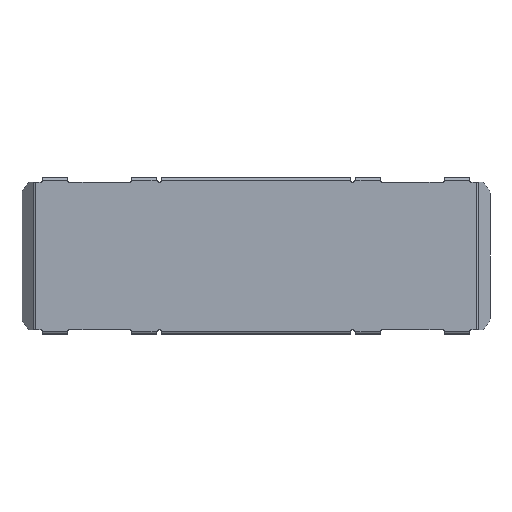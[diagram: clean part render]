
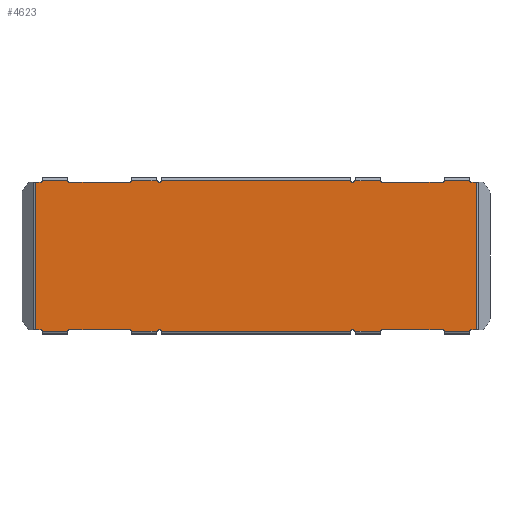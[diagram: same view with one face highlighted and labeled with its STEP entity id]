
A CAD part, top view. The second image highlights one B-rep face of the part: STEP entity #4623.
In plain terms, the highlighted planar face has unit normal (0, 0, 1).
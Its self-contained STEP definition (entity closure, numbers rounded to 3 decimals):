
#226=CIRCLE('',#4921,1.5);
#227=CIRCLE('',#4922,1.5);
#228=CIRCLE('',#4923,1.5);
#229=CIRCLE('',#4924,1.5);
#230=CIRCLE('',#4925,1.5);
#231=CIRCLE('',#4926,1.5);
#232=CIRCLE('',#4927,1.5);
#233=CIRCLE('',#4928,1.5);
#234=CIRCLE('',#4929,1.5);
#235=CIRCLE('',#4930,1.5);
#236=CIRCLE('',#4931,1.5);
#237=CIRCLE('',#4932,1.5);
#238=CIRCLE('',#4933,1.5);
#239=CIRCLE('',#4934,1.5);
#240=CIRCLE('',#4935,1.5);
#241=CIRCLE('',#4936,1.5);
#536=ORIENTED_EDGE('',*,*,#1939,.F.);
#537=ORIENTED_EDGE('',*,*,#1860,.T.);
#538=ORIENTED_EDGE('',*,*,#1940,.T.);
#539=ORIENTED_EDGE('',*,*,#1941,.T.);
#540=ORIENTED_EDGE('',*,*,#1942,.T.);
#541=ORIENTED_EDGE('',*,*,#1943,.T.);
#542=ORIENTED_EDGE('',*,*,#1944,.T.);
#543=ORIENTED_EDGE('',*,*,#1945,.T.);
#544=ORIENTED_EDGE('',*,*,#1946,.T.);
#545=ORIENTED_EDGE('',*,*,#1947,.T.);
#546=ORIENTED_EDGE('',*,*,#1948,.T.);
#547=ORIENTED_EDGE('',*,*,#1949,.T.);
#548=ORIENTED_EDGE('',*,*,#1950,.T.);
#549=ORIENTED_EDGE('',*,*,#1951,.T.);
#550=ORIENTED_EDGE('',*,*,#1952,.T.);
#551=ORIENTED_EDGE('',*,*,#1953,.T.);
#552=ORIENTED_EDGE('',*,*,#1954,.T.);
#553=ORIENTED_EDGE('',*,*,#1927,.T.);
#554=ORIENTED_EDGE('',*,*,#1955,.T.);
#555=ORIENTED_EDGE('',*,*,#1935,.T.);
#556=ORIENTED_EDGE('',*,*,#1956,.T.);
#557=ORIENTED_EDGE('',*,*,#1957,.F.);
#558=ORIENTED_EDGE('',*,*,#1958,.T.);
#559=ORIENTED_EDGE('',*,*,#1959,.T.);
#560=ORIENTED_EDGE('',*,*,#1960,.T.);
#561=ORIENTED_EDGE('',*,*,#1961,.F.);
#562=ORIENTED_EDGE('',*,*,#1962,.T.);
#563=ORIENTED_EDGE('',*,*,#1963,.F.);
#564=ORIENTED_EDGE('',*,*,#1964,.T.);
#565=ORIENTED_EDGE('',*,*,#1965,.F.);
#566=ORIENTED_EDGE('',*,*,#1966,.T.);
#567=ORIENTED_EDGE('',*,*,#1967,.T.);
#568=ORIENTED_EDGE('',*,*,#1968,.T.);
#569=ORIENTED_EDGE('',*,*,#1969,.F.);
#570=ORIENTED_EDGE('',*,*,#1970,.T.);
#571=ORIENTED_EDGE('',*,*,#1971,.T.);
#1860=EDGE_CURVE('',#2576,#2577,#3040,.T.);
#1927=EDGE_CURVE('',#2636,#2635,#3080,.T.);
#1935=EDGE_CURVE('',#2640,#2639,#3086,.T.);
#1939=EDGE_CURVE('',#2576,#2642,#3089,.T.);
#1940=EDGE_CURVE('',#2577,#2643,#226,.F.);
#1941=EDGE_CURVE('',#2643,#2644,#3090,.T.);
#1942=EDGE_CURVE('',#2644,#2645,#227,.F.);
#1943=EDGE_CURVE('',#2645,#2646,#3091,.T.);
#1944=EDGE_CURVE('',#2646,#2647,#228,.F.);
#1945=EDGE_CURVE('',#2647,#2648,#3092,.T.);
#1946=EDGE_CURVE('',#2648,#2649,#229,.F.);
#1947=EDGE_CURVE('',#2649,#2650,#3093,.T.);
#1948=EDGE_CURVE('',#2650,#2651,#230,.F.);
#1949=EDGE_CURVE('',#2651,#2652,#3094,.T.);
#1950=EDGE_CURVE('',#2652,#2653,#231,.F.);
#1951=EDGE_CURVE('',#2653,#2654,#3095,.T.);
#1952=EDGE_CURVE('',#2654,#2655,#232,.F.);
#1953=EDGE_CURVE('',#2655,#2656,#3096,.T.);
#1954=EDGE_CURVE('',#2656,#2636,#233,.F.);
#1955=EDGE_CURVE('',#2635,#2640,#3097,.T.);
#1956=EDGE_CURVE('',#2639,#2657,#234,.F.);
#1957=EDGE_CURVE('',#2658,#2657,#3098,.T.);
#1958=EDGE_CURVE('',#2658,#2659,#235,.F.);
#1959=EDGE_CURVE('',#2659,#2660,#3099,.T.);
#1960=EDGE_CURVE('',#2660,#2661,#236,.T.);
#1961=EDGE_CURVE('',#2662,#2661,#3100,.T.);
#1962=EDGE_CURVE('',#2662,#2663,#237,.F.);
#1963=EDGE_CURVE('',#2664,#2663,#3101,.T.);
#1964=EDGE_CURVE('',#2664,#2665,#238,.F.);
#1965=EDGE_CURVE('',#2666,#2665,#3102,.T.);
#1966=EDGE_CURVE('',#2666,#2667,#239,.F.);
#1967=EDGE_CURVE('',#2667,#2668,#3103,.T.);
#1968=EDGE_CURVE('',#2668,#2669,#240,.F.);
#1969=EDGE_CURVE('',#2670,#2669,#3104,.T.);
#1970=EDGE_CURVE('',#2670,#2671,#241,.F.);
#1971=EDGE_CURVE('',#2671,#2642,#3105,.T.);
#2576=VERTEX_POINT('',#6724);
#2577=VERTEX_POINT('',#6725);
#2635=VERTEX_POINT('',#6858);
#2636=VERTEX_POINT('',#6860);
#2639=VERTEX_POINT('',#6872);
#2640=VERTEX_POINT('',#6874);
#2642=VERTEX_POINT('',#6882);
#2643=VERTEX_POINT('',#6884);
#2644=VERTEX_POINT('',#6886);
#2645=VERTEX_POINT('',#6888);
#2646=VERTEX_POINT('',#6890);
#2647=VERTEX_POINT('',#6892);
#2648=VERTEX_POINT('',#6894);
#2649=VERTEX_POINT('',#6896);
#2650=VERTEX_POINT('',#6898);
#2651=VERTEX_POINT('',#6900);
#2652=VERTEX_POINT('',#6902);
#2653=VERTEX_POINT('',#6904);
#2654=VERTEX_POINT('',#6906);
#2655=VERTEX_POINT('',#6908);
#2656=VERTEX_POINT('',#6910);
#2657=VERTEX_POINT('',#6914);
#2658=VERTEX_POINT('',#6916);
#2659=VERTEX_POINT('',#6918);
#2660=VERTEX_POINT('',#6920);
#2661=VERTEX_POINT('',#6922);
#2662=VERTEX_POINT('',#6924);
#2663=VERTEX_POINT('',#6926);
#2664=VERTEX_POINT('',#6928);
#2665=VERTEX_POINT('',#6930);
#2666=VERTEX_POINT('',#6932);
#2667=VERTEX_POINT('',#6934);
#2668=VERTEX_POINT('',#6936);
#2669=VERTEX_POINT('',#6938);
#2670=VERTEX_POINT('',#6940);
#2671=VERTEX_POINT('',#6942);
#3040=LINE('',#6723,#3484);
#3080=LINE('',#6859,#3524);
#3086=LINE('',#6873,#3530);
#3089=LINE('',#6881,#3533);
#3090=LINE('',#6885,#3534);
#3091=LINE('',#6889,#3535);
#3092=LINE('',#6893,#3536);
#3093=LINE('',#6897,#3537);
#3094=LINE('',#6901,#3538);
#3095=LINE('',#6905,#3539);
#3096=LINE('',#6909,#3540);
#3097=LINE('',#6912,#3541);
#3098=LINE('',#6915,#3542);
#3099=LINE('',#6919,#3543);
#3100=LINE('',#6923,#3544);
#3101=LINE('',#6927,#3545);
#3102=LINE('',#6931,#3546);
#3103=LINE('',#6935,#3547);
#3104=LINE('',#6939,#3548);
#3105=LINE('',#6943,#3549);
#3484=VECTOR('',#5347,1000.);
#3524=VECTOR('',#5459,1000.);
#3530=VECTOR('',#5473,1000.);
#3533=VECTOR('',#5482,1000.);
#3534=VECTOR('',#5485,1000.);
#3535=VECTOR('',#5488,1000.);
#3536=VECTOR('',#5491,1000.);
#3537=VECTOR('',#5494,1000.);
#3538=VECTOR('',#5497,1000.);
#3539=VECTOR('',#5500,1000.);
#3540=VECTOR('',#5503,1000.);
#3541=VECTOR('',#5506,1000.);
#3542=VECTOR('',#5509,1000.);
#3543=VECTOR('',#5512,1000.);
#3544=VECTOR('',#5515,1000.);
#3545=VECTOR('',#5518,1000.);
#3546=VECTOR('',#5521,1000.);
#3547=VECTOR('',#5524,1000.);
#3548=VECTOR('',#5527,1000.);
#3549=VECTOR('',#5530,1000.);
#3941=EDGE_LOOP('',(#536,#537,#538,#539,#540,#541,#542,#543,#544,#545,#546,
#547,#548,#549,#550,#551,#552,#553,#554,#555,#556,#557,#558,#559,#560,#561,
#562,#563,#564,#565,#566,#567,#568,#569,#570,#571));
#4223=FACE_BOUND('',#3941,.T.);
#4501=PLANE('',#4920);
#4623=ADVANCED_FACE('',(#4223),#4501,.T.);
#4920=AXIS2_PLACEMENT_3D('',#6880,#5480,#5481);
#4921=AXIS2_PLACEMENT_3D('',#6883,#5483,#5484);
#4922=AXIS2_PLACEMENT_3D('',#6887,#5486,#5487);
#4923=AXIS2_PLACEMENT_3D('',#6891,#5489,#5490);
#4924=AXIS2_PLACEMENT_3D('',#6895,#5492,#5493);
#4925=AXIS2_PLACEMENT_3D('',#6899,#5495,#5496);
#4926=AXIS2_PLACEMENT_3D('',#6903,#5498,#5499);
#4927=AXIS2_PLACEMENT_3D('',#6907,#5501,#5502);
#4928=AXIS2_PLACEMENT_3D('',#6911,#5504,#5505);
#4929=AXIS2_PLACEMENT_3D('',#6913,#5507,#5508);
#4930=AXIS2_PLACEMENT_3D('',#6917,#5510,#5511);
#4931=AXIS2_PLACEMENT_3D('',#6921,#5513,#5514);
#4932=AXIS2_PLACEMENT_3D('',#6925,#5516,#5517);
#4933=AXIS2_PLACEMENT_3D('',#6929,#5519,#5520);
#4934=AXIS2_PLACEMENT_3D('',#6933,#5522,#5523);
#4935=AXIS2_PLACEMENT_3D('',#6937,#5525,#5526);
#4936=AXIS2_PLACEMENT_3D('',#6941,#5528,#5529);
#5347=DIRECTION('',(1.,0.,0.));
#5459=DIRECTION('',(1.,0.,0.));
#5473=DIRECTION('',(-1.,0.,0.));
#5480=DIRECTION('',(0.,0.,1.));
#5481=DIRECTION('',(1.,0.,0.));
#5482=DIRECTION('',(0.,1.,0.));
#5483=DIRECTION('',(0.,0.,1.));
#5484=DIRECTION('',(1.,0.,0.));
#5485=DIRECTION('',(1.,0.,0.));
#5486=DIRECTION('',(0.,0.,1.));
#5487=DIRECTION('',(1.,0.,0.));
#5488=DIRECTION('',(1.,0.,0.));
#5489=DIRECTION('',(0.,0.,1.));
#5490=DIRECTION('',(1.,0.,0.));
#5491=DIRECTION('',(1.,0.,0.));
#5492=DIRECTION('',(0.,0.,1.));
#5493=DIRECTION('',(1.,0.,0.));
#5494=DIRECTION('',(1.,0.,0.));
#5495=DIRECTION('',(0.,0.,1.));
#5496=DIRECTION('',(1.,0.,0.));
#5497=DIRECTION('',(1.,0.,0.));
#5498=DIRECTION('',(0.,0.,1.));
#5499=DIRECTION('',(1.,0.,0.));
#5500=DIRECTION('',(1.,0.,0.));
#5501=DIRECTION('',(0.,0.,1.));
#5502=DIRECTION('',(1.,0.,0.));
#5503=DIRECTION('',(1.,0.,0.));
#5504=DIRECTION('',(0.,0.,1.));
#5505=DIRECTION('',(1.,0.,0.));
#5506=DIRECTION('',(0.,1.,0.));
#5507=DIRECTION('',(0.,0.,1.));
#5508=DIRECTION('',(1.,0.,0.));
#5509=DIRECTION('',(1.,0.,0.));
#5510=DIRECTION('',(0.,0.,1.));
#5511=DIRECTION('',(1.,0.,0.));
#5512=DIRECTION('',(-1.,0.,0.));
#5513=DIRECTION('',(0.,0.,-1.));
#5514=DIRECTION('',(0.,1.,0.));
#5515=DIRECTION('',(1.,0.,0.));
#5516=DIRECTION('',(0.,0.,1.));
#5517=DIRECTION('',(1.,0.,0.));
#5518=DIRECTION('',(1.,0.,0.));
#5519=DIRECTION('',(0.,0.,1.));
#5520=DIRECTION('',(1.,0.,0.));
#5521=DIRECTION('',(1.,0.,0.));
#5522=DIRECTION('',(0.,0.,1.));
#5523=DIRECTION('',(1.,0.,0.));
#5524=DIRECTION('',(-1.,0.,0.));
#5525=DIRECTION('',(0.,0.,1.));
#5526=DIRECTION('',(1.,0.,0.));
#5527=DIRECTION('',(1.,0.,0.));
#5528=DIRECTION('',(0.,0.,1.));
#5529=DIRECTION('',(1.,0.,0.));
#5530=DIRECTION('',(-1.,0.,0.));
#6723=CARTESIAN_POINT('',(-160.,-49.5,0.));
#6724=CARTESIAN_POINT('',(-148.,-49.5,0.));
#6725=CARTESIAN_POINT('',(-145.,-49.5,0.));
#6858=CARTESIAN_POINT('',(148.,-49.5,0.));
#6859=CARTESIAN_POINT('',(143.5,-49.5,0.));
#6860=CARTESIAN_POINT('',(145.,-49.5,0.));
#6872=CARTESIAN_POINT('',(145.,49.5,0.));
#6873=CARTESIAN_POINT('',(143.5,49.5,0.));
#6874=CARTESIAN_POINT('',(148.,49.5,0.));
#6880=CARTESIAN_POINT('',(0.,0.,0.));
#6881=CARTESIAN_POINT('',(-148.,-49.5,0.));
#6882=CARTESIAN_POINT('',(-148.,49.5,0.));
#6883=CARTESIAN_POINT('',(-145.,-51.,0.));
#6884=CARTESIAN_POINT('',(-143.586,-50.5,0.));
#6885=CARTESIAN_POINT('',(-143.5,-50.5,0.));
#6886=CARTESIAN_POINT('',(-126.414,-50.5,0.));
#6887=CARTESIAN_POINT('',(-125.,-51.,0.));
#6888=CARTESIAN_POINT('',(-125.,-49.5,0.));
#6889=CARTESIAN_POINT('',(0.,-49.5,0.));
#6890=CARTESIAN_POINT('',(-85.,-49.5,0.));
#6891=CARTESIAN_POINT('',(-85.,-51.,0.));
#6892=CARTESIAN_POINT('',(-83.586,-50.5,0.));
#6893=CARTESIAN_POINT('',(-143.5,-50.5,0.));
#6894=CARTESIAN_POINT('',(-66.414,-50.5,0.));
#6895=CARTESIAN_POINT('',(-65.,-51.,0.));
#6896=CARTESIAN_POINT('',(-63.586,-50.5,0.));
#6897=CARTESIAN_POINT('',(-143.5,-50.5,0.));
#6898=CARTESIAN_POINT('',(63.586,-50.5,0.));
#6899=CARTESIAN_POINT('',(65.,-51.,0.));
#6900=CARTESIAN_POINT('',(66.414,-50.5,0.));
#6901=CARTESIAN_POINT('',(-143.5,-50.5,0.));
#6902=CARTESIAN_POINT('',(83.586,-50.5,0.));
#6903=CARTESIAN_POINT('',(85.,-51.,0.));
#6904=CARTESIAN_POINT('',(85.,-49.5,0.));
#6905=CARTESIAN_POINT('',(0.,-49.5,0.));
#6906=CARTESIAN_POINT('',(125.,-49.5,0.));
#6907=CARTESIAN_POINT('',(125.,-51.,0.));
#6908=CARTESIAN_POINT('',(126.414,-50.5,0.));
#6909=CARTESIAN_POINT('',(-143.5,-50.5,0.));
#6910=CARTESIAN_POINT('',(143.586,-50.5,0.));
#6911=CARTESIAN_POINT('',(145.,-51.,0.));
#6912=CARTESIAN_POINT('',(148.,-49.5,0.));
#6913=CARTESIAN_POINT('',(145.,51.,0.));
#6914=CARTESIAN_POINT('',(143.586,50.5,0.));
#6915=CARTESIAN_POINT('',(-143.5,50.5,0.));
#6916=CARTESIAN_POINT('',(126.414,50.5,0.));
#6917=CARTESIAN_POINT('',(125.,51.,0.));
#6918=CARTESIAN_POINT('',(125.,49.5,0.));
#6919=CARTESIAN_POINT('',(85.,49.5,0.));
#6920=CARTESIAN_POINT('',(85.,49.5,0.));
#6921=CARTESIAN_POINT('',(85.,51.,0.));
#6922=CARTESIAN_POINT('',(83.586,50.5,0.));
#6923=CARTESIAN_POINT('',(-143.5,50.5,0.));
#6924=CARTESIAN_POINT('',(66.414,50.5,0.));
#6925=CARTESIAN_POINT('',(65.,51.,0.));
#6926=CARTESIAN_POINT('',(63.586,50.5,0.));
#6927=CARTESIAN_POINT('',(-143.5,50.5,0.));
#6928=CARTESIAN_POINT('',(-63.586,50.5,0.));
#6929=CARTESIAN_POINT('',(-65.,51.,0.));
#6930=CARTESIAN_POINT('',(-66.414,50.5,0.));
#6931=CARTESIAN_POINT('',(-143.5,50.5,0.));
#6932=CARTESIAN_POINT('',(-83.586,50.5,0.));
#6933=CARTESIAN_POINT('',(-85.,51.,0.));
#6934=CARTESIAN_POINT('',(-85.,49.5,0.));
#6935=CARTESIAN_POINT('',(0.,49.5,0.));
#6936=CARTESIAN_POINT('',(-125.,49.5,0.));
#6937=CARTESIAN_POINT('',(-125.,51.,0.));
#6938=CARTESIAN_POINT('',(-126.414,50.5,0.));
#6939=CARTESIAN_POINT('',(-143.5,50.5,0.));
#6940=CARTESIAN_POINT('',(-143.586,50.5,0.));
#6941=CARTESIAN_POINT('',(-145.,51.,0.));
#6942=CARTESIAN_POINT('',(-145.,49.5,0.));
#6943=CARTESIAN_POINT('',(-160.,49.5,0.));
